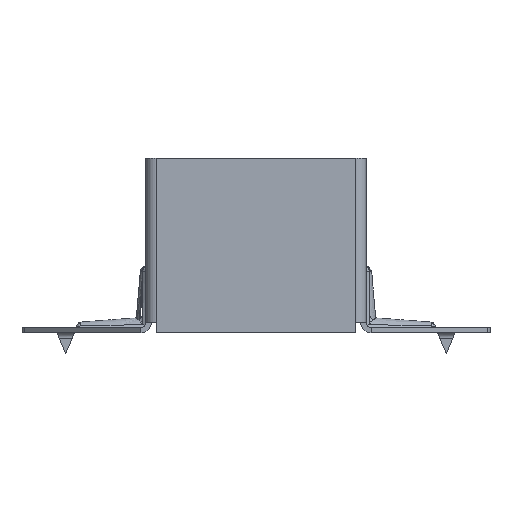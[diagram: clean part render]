
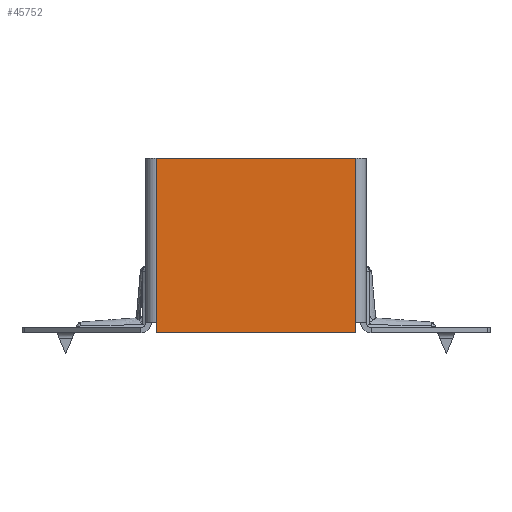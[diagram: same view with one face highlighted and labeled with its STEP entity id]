
A CAD part, front view. The second image highlights one B-rep face of the part: STEP entity #45752.
In plain terms, the highlighted planar face has unit normal (0, -1, 0).
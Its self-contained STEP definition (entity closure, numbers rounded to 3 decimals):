
#1282 = AXIS2_PLACEMENT_3D ( 'NONE', #14976, #44070, #40592 ) ;
#1578 = CARTESIAN_POINT ( 'NONE',  ( -28.5, -80.75, -32. ) ) ;
#1693 = LINE ( 'NONE', #10757, #19186 ) ;
#2663 = VECTOR ( 'NONE', #17035, 1000. ) ;
#3295 = CARTESIAN_POINT ( 'NONE',  ( 28.5, -80.75, -29. ) ) ;
#5337 = VERTEX_POINT ( 'NONE', #21019 ) ;
#5415 = VERTEX_POINT ( 'NONE', #14395 ) ;
#5520 = CARTESIAN_POINT ( 'NONE',  ( 28.5, -80.75, 3. ) ) ;
#5618 = EDGE_CURVE ( 'NONE', #30054, #17311, #42854, .T. ) ;
#5845 = ORIENTED_EDGE ( 'NONE', *, *, #45824, .F. ) ;
#6040 = LINE ( 'NONE', #17197, #2663 ) ;
#7321 = EDGE_CURVE ( 'NONE', #17311, #5415, #1693, .T. ) ;
#8982 = LINE ( 'NONE', #22360, #45617 ) ;
#10449 = DIRECTION ( 'NONE',  ( 0., 0., -1. ) ) ;
#10757 = CARTESIAN_POINT ( 'NONE',  ( 28.5, -80.75, 3. ) ) ;
#11324 = DIRECTION ( 'NONE',  ( -1., 0., 0. ) ) ;
#12272 = ORIENTED_EDGE ( 'NONE', *, *, #7321, .F. ) ;
#13052 = VECTOR ( 'NONE', #25121, 1000. ) ;
#14395 = CARTESIAN_POINT ( 'NONE',  ( 28.5, -80.75, -32. ) ) ;
#14572 = CARTESIAN_POINT ( 'NONE',  ( -28.5, -80.75, 3. ) ) ;
#14976 = CARTESIAN_POINT ( 'NONE',  ( -15., -80.75, 3. ) ) ;
#17035 = DIRECTION ( 'NONE',  ( 1., 0., 0. ) ) ;
#17197 = CARTESIAN_POINT ( 'NONE',  ( -67., -80.75, 18. ) ) ;
#17311 = VERTEX_POINT ( 'NONE', #3295 ) ;
#18178 = EDGE_LOOP ( 'NONE', ( #39830, #24449, #5845, #41902, #23813, #12272 ) ) ;
#19186 = VECTOR ( 'NONE', #10449, 1000. ) ;
#21019 = CARTESIAN_POINT ( 'NONE',  ( -28.5, -80.75, 18. ) ) ;
#22360 = CARTESIAN_POINT ( 'NONE',  ( -15., -80.75, -32. ) ) ;
#23745 = VECTOR ( 'NONE', #37937, 1000. ) ;
#23813 = ORIENTED_EDGE ( 'NONE', *, *, #33337, .F. ) ;
#24102 = VECTOR ( 'NONE', #36854, 1000. ) ;
#24449 = ORIENTED_EDGE ( 'NONE', *, *, #45587, .F. ) ;
#25121 = DIRECTION ( 'NONE',  ( 0., 0., 1. ) ) ;
#25877 = CARTESIAN_POINT ( 'NONE',  ( 28.5, -80.75, 18. ) ) ;
#27065 = CARTESIAN_POINT ( 'NONE',  ( -28.5, -80.75, -29. ) ) ;
#29794 = PLANE ( 'NONE',  #1282 ) ;
#30054 = VERTEX_POINT ( 'NONE', #25877 ) ;
#30900 = EDGE_CURVE ( 'NONE', #34835, #34566, #42306, .T. ) ;
#33337 = EDGE_CURVE ( 'NONE', #5415, #34835, #8982, .T. ) ;
#34194 = LINE ( 'NONE', #40301, #24102 ) ;
#34566 = VERTEX_POINT ( 'NONE', #27065 ) ;
#34835 = VERTEX_POINT ( 'NONE', #1578 ) ;
#36854 = DIRECTION ( 'NONE',  ( 0., 0., 1. ) ) ;
#37937 = DIRECTION ( 'NONE',  ( 0., 0., -1. ) ) ;
#39830 = ORIENTED_EDGE ( 'NONE', *, *, #5618, .F. ) ;
#40301 = CARTESIAN_POINT ( 'NONE',  ( -28.5, -80.75, 3. ) ) ;
#40592 = DIRECTION ( 'NONE',  ( 1., 0., 0. ) ) ;
#41902 = ORIENTED_EDGE ( 'NONE', *, *, #30900, .F. ) ;
#42067 = FACE_OUTER_BOUND ( 'NONE', #18178, .T. ) ;
#42306 = LINE ( 'NONE', #14572, #13052 ) ;
#42854 = LINE ( 'NONE', #5520, #23745 ) ;
#44070 = DIRECTION ( 'NONE',  ( 0., 1., 0. ) ) ;
#45587 = EDGE_CURVE ( 'NONE', #5337, #30054, #6040, .T. ) ;
#45617 = VECTOR ( 'NONE', #11324, 1000. ) ;
#45752 = ADVANCED_FACE ( 'NONE', ( #42067 ), #29794, .F. ) ;
#45824 = EDGE_CURVE ( 'NONE', #34566, #5337, #34194, .T. ) ;
